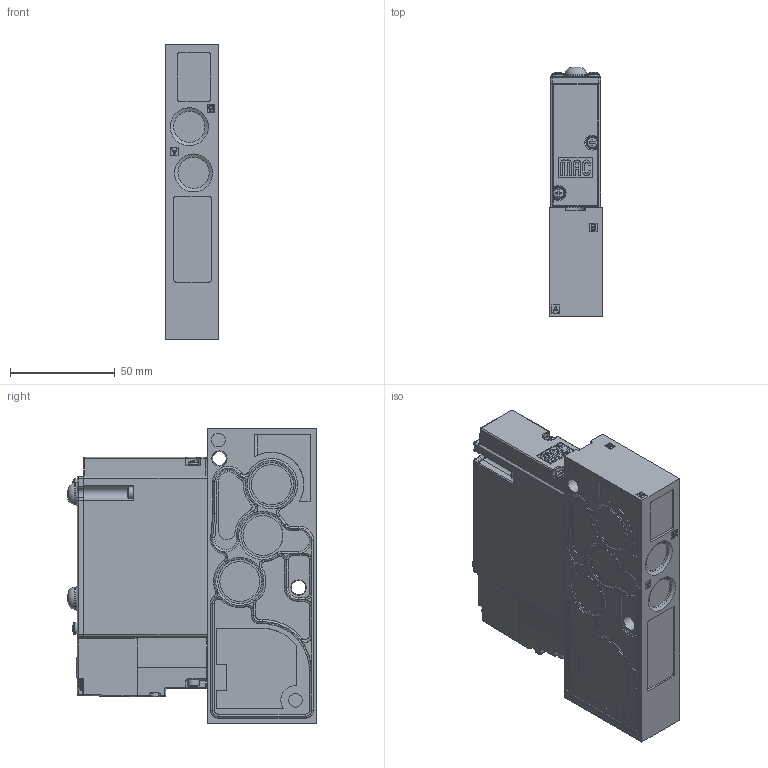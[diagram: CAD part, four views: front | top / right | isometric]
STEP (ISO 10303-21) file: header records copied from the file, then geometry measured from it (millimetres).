
FILE_DESCRIPTION (( 'STEP AP214' ), '1' );
FILE_NAME ('92A-AAA-C2J-DM-DXXP-1DM.STEP', '2019-07-05T15:31:43', ( 'user' ), ( '' ), 'SwSTEP 2.0', 'SolidWorks 2014', '' );
FILE_SCHEMA (( 'AUTOMOTIVE_DESIGN' ));
Length unit declared in the file: millimetre
Products named in the file (6): 92-PILOT-DM; 92-BODY-AAA; 92-OVERRIDE-1; 92-OPERATOR-DXXP-YDM; 92-BASE-C2J; 92A-AAA-C2J-DM-DXXP-1DM
Assembly tree (5 placements, depth 2):
  92A-AAA-C2J-DM-DXXP-1DM
    92-BASE-C2J
    92-OPERATOR-DXXP-YDM
    92-OVERRIDE-1
    92-BODY-AAA
    92-PILOT-DM
Bounding box: 25.5 x 118.6 x 141 mm (x, y, z)
Volume: 329182.6 mm3; surface area: 74529.5 mm2
Topology: 25 solids, 29 shells, 2239 faces, 5702 edges, 3669 vertices
Faces by surface type: plane 1138, cylinder 697, cone 167, bspline 107, torus 92, sphere 38
Full cylindrical faces by diameter (mm): 0.01 x2, 0.72 x1, 0.74 x1, 0.85 x1, 0.95 x2, 1 x1, 2 x2, 2.2 x2, 2.4 x2, 2.5 x2, 2.6 x2, 2.7 x1, 2.79 x4, 3 x10, 3.15 x2, 3.25 x2, 3.3 x4, 3.35 x2, 3.6 x1, 4.775 x2, 5 x1, 5.1 x1, 5.5 x8, 5.6 x1, 6.22 x1, 6.8 x2, 6.92 x1, 7 x1, 7.135 x1, 9.5 x2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
Entity records: 95715 total; most frequent: CARTESIAN_POINT 17078, DIRECTION 11085, ORIENTED_EDGE 11028, EDGE_CURVE 5514, AXIS2_PLACEMENT_3D 3912, VERTEX_POINT 3646, LINE 3261, VECTOR 3261
